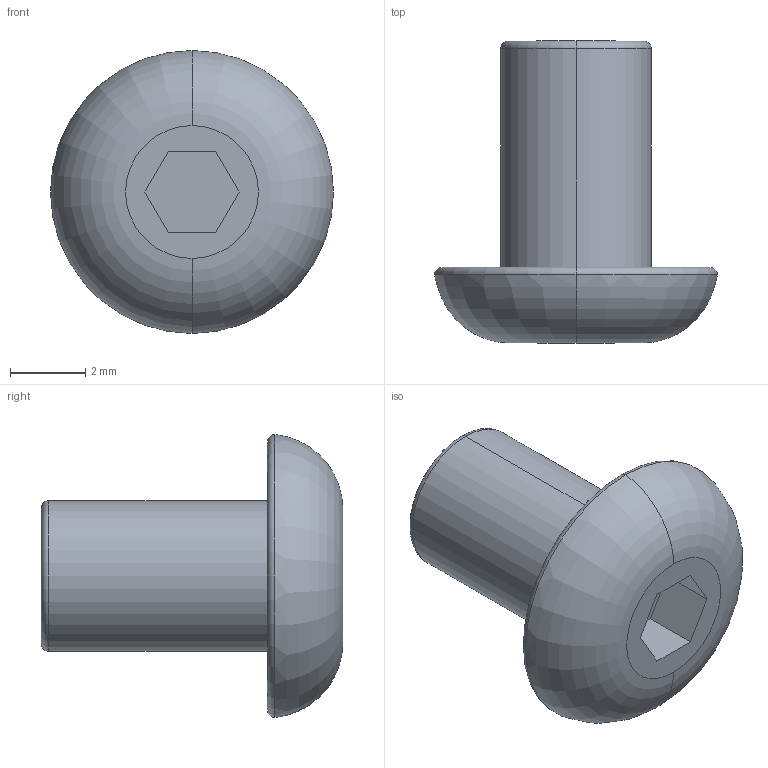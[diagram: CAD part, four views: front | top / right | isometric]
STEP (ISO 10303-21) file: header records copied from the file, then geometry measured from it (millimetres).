
FILE_DESCRIPTION (( 'STEP AP203' ), '1' );
FILE_NAME ('蹟佪-M4 x 6.STEP', '2025-06-04T09:06:37', ( '' ), ( '' ), 'SwSTEP 2.0', 'SolidWorks 2020', '' );
FILE_SCHEMA (( 'CONFIG_CONTROL_DESIGN' ));
Length unit declared in the file: millimetre
Products named in the file (1): 蹟佪-M4 x 6
Bounding box: 7.5 x 8 x 7.5 mm (x, y, z)
Volume: 139.9 mm3; surface area: 197.3 mm2
Topology: 1 solids, 1 shells, 18 faces, 38 edges, 24 vertices
Faces by surface type: plane 10, torus 6, cylinder 2
Entity records: 565 total; most frequent: DIRECTION 94, CARTESIAN_POINT 81, ORIENTED_EDGE 76, EDGE_CURVE 38, AXIS2_PLACEMENT_3D 37, VERTEX_POINT 24, VECTOR 20, LINE 20
